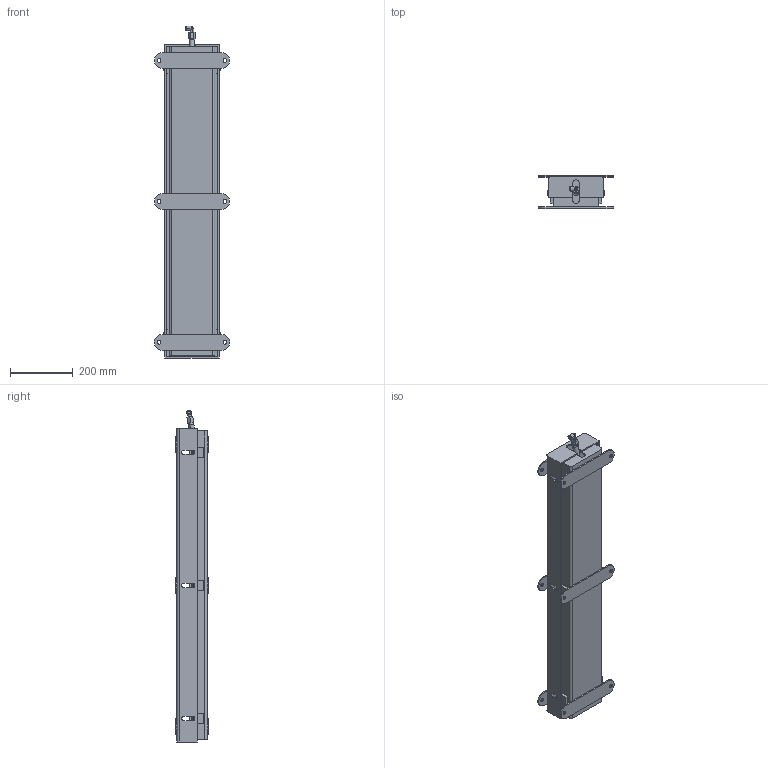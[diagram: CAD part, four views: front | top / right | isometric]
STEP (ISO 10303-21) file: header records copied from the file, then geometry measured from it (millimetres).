
FILE_DESCRIPTION (( 'STEP AP214' ), '1' );
FILE_NAME ('ALB-WB-1000_H.STEP', '2013-03-15T07:48:08', ( '' ), ( '' ), '', '', '' );
FILE_SCHEMA (( 'AUTOMOTIVE_DESIGN' ));
Length unit declared in the file: millimetre
Products named in the file (6): KQ2LF10_03A; SGGD10A_50; CB10_12; frame1; frame2; ALB-WB-1000_H
Assembly tree (10 placements, depth 2):
  ALB-WB-1000_H
    frame2
    frame1
    CB10_12  x6
    SGGD10A_50
    KQ2LF10_03A
Bounding box: 240 x 105 x 1060 mm (x, y, z)
Volume: 2913410.1 mm3; surface area: 1335091.6 mm2
Topology: 22 solids, 22 shells, 397 faces, 942 edges, 591 vertices
Faces by surface type: plane 203, cylinder 145, cone 47, sphere 2
Entity records: 8878 total; most frequent: DIRECTION 1500, CARTESIAN_POINT 1432, ORIENTED_EDGE 1332, EDGE_CURVE 666, AXIS2_PLACEMENT_3D 554, VERTEX_POINT 436, LINE 392, VECTOR 392
